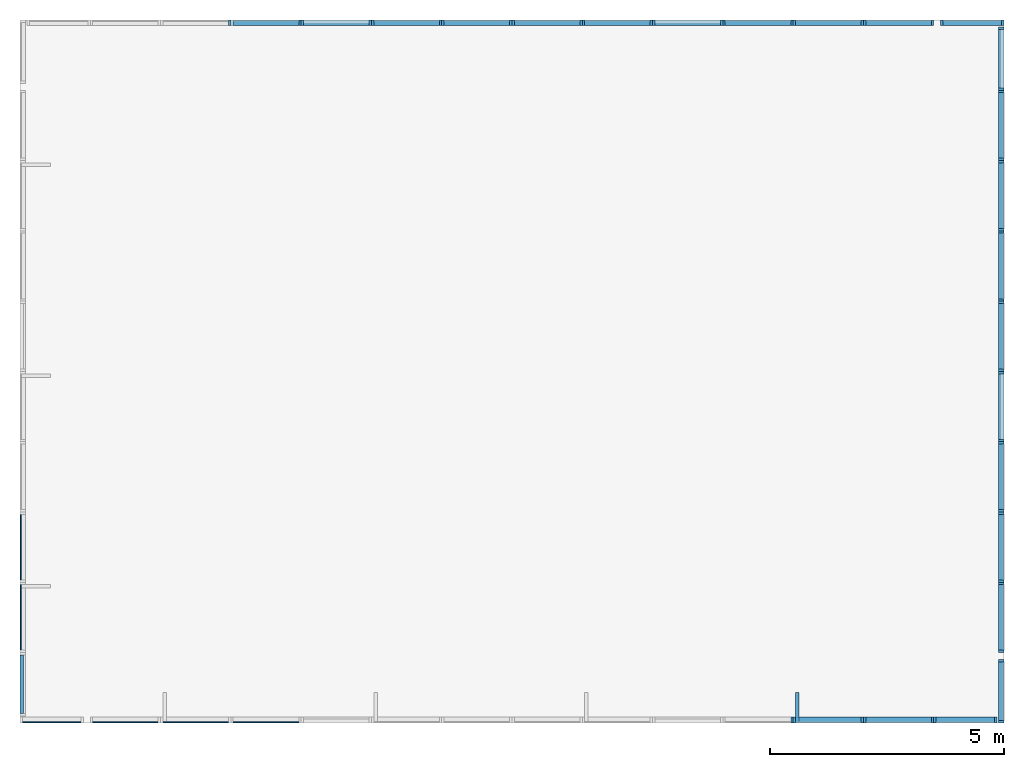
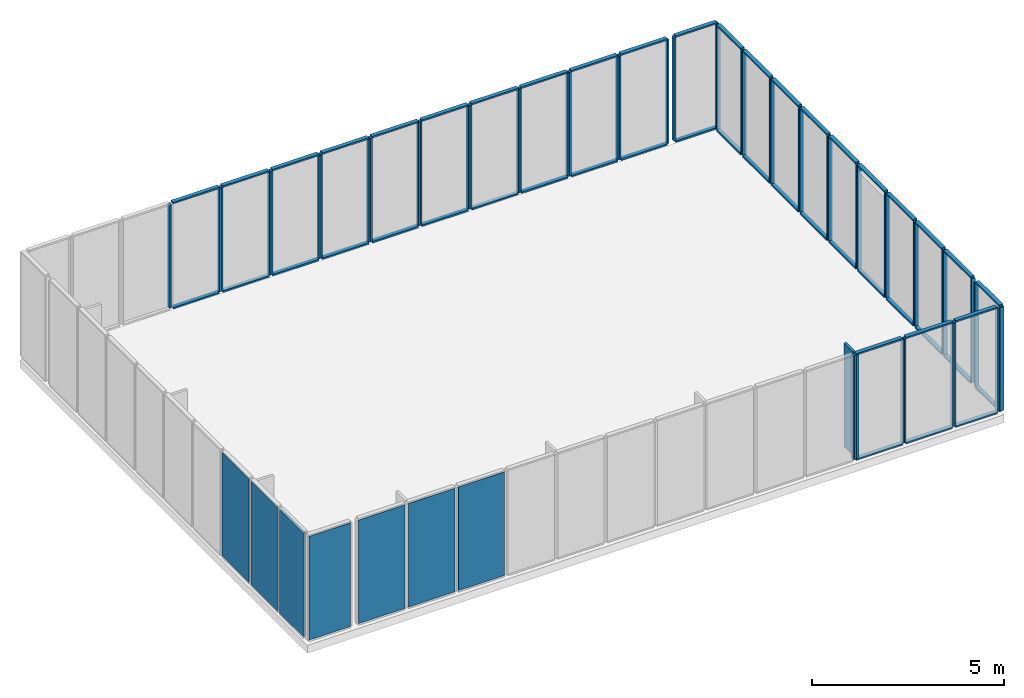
# One storey, part 2 of 3: 98 members, 7 plates.
"""IFC4 building model written with IfcOpenShell, lengths in metres."""

from ifc_helpers import new_model, si_unit, frame, origin_with_axes, place, context, subcontext, project, spatial, indexed_curve, outline, extrude, material, element, save


model = new_model("IFC4")

# Units and contexts
model_context = context("Model", 3, precision=1e-05, world=origin_with_axes())
body_context = subcontext(model_context, "Body", "Model", "MODEL_VIEW")
ifc_project = project(units=[si_unit("AREAUNIT", "SQUARE_METRE"), si_unit("VOLUMEUNIT", "CUBIC_METRE"), si_unit("LENGTHUNIT", "METRE")], contexts=[model_context])

# Site, building, storey
site = spatial("IfcSite", under=ifc_project, Name="Synthetic Site")
building = spatial("IfcBuilding", under=site, Name="Complex Tower")
storey_placement = place(None, frame((0.0, 0.0, 19.8), z_axis=(0.0, 0.0, 1.0), x_axis=(1.0, 0.0, 0.0)))
storey = spatial("IfcBuildingStorey", under=building, at=storey_placement, Name="L06", Elevation=19.8)

# Members
ifc_material_1 = material(Name="Aluminium")
for number, where, z_axis, x_axis, name in (
    (1, (19.45, 1.5, 0.14999999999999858), (0.0, 0.0, 1.0), (1.0, 0.0, 0.0), "CT-L06-S-011-MR"),
    (2, (19.5, 1.5, 0.14999999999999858), (0.0, 0.0, 1.0), (1.0, 0.0, 0.0), "CT-L06-S-012-ML"),
    (3, (20.95, 1.5, 0.14999999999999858), (0.0, 0.0, 1.0), (1.0, 0.0, 0.0), "CT-L06-S-012-MR"),
):
    element("IfcMember", number, at=place(storey_placement, frame(where, z_axis=z_axis, x_axis=x_axis)), inside=storey, material=ifc_material_1, Name=name, PredefinedType="MULLION", context=body_context, shape_type="SweptSolid", body=[
        extrude(outline(indexed_curve([(0.0, 0.0), (0.0, 0.12), (0.05, 0.12), (0.05, 0.0), (0.0, 0.0)], self_intersect=False)), origin_with_axes(), (0.0, 0.0, 1.0), 3.3000000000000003),
    ])
for number, where, z_axis, x_axis, name in (
    (4, (19.55, 1.5, 0.09999999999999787), (0.0, 0.0, 1.0), (1.0, 0.0, 0.0), "CT-L06-S-012-FB"),
    (5, (19.55, 1.5, 3.4499999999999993), (0.0, 0.0, 1.0), (1.0, 0.0, 0.0), "CT-L06-S-012-FT"),
):
    element("IfcMember", number, at=place(storey_placement, frame(where, z_axis=z_axis, x_axis=x_axis)), inside=storey, material=ifc_material_1, Name=name, PredefinedType="MULLION", context=body_context, shape_type="SweptSolid", body=[
        extrude(outline(indexed_curve([(0.0, 0.0), (0.0, 0.12), (1.4, 0.12), (1.4, 0.0), (0.0, 0.0)], self_intersect=False)), origin_with_axes(), (0.0, 0.0, 1.0), 0.05),
    ])
member_1_placement = place(storey_placement, frame((19.55, 1.5, 0.14999999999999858), z_axis=(0.0, 0.0, 1.0), x_axis=(1.0, 0.0, 0.0)))
element("IfcMember", 6, at=member_1_placement, inside=storey, material=ifc_material_1, Name="CT-L06-S-012-FIN", ObjectType="Solar shading", PredefinedType="USERDEFINED", context=body_context, shape_type="SweptSolid", body=[
    extrude(outline(indexed_curve([(0.0, 0.0), (0.0, 0.65), (0.075, 0.65), (0.075, 0.0), (0.0, 0.0)], self_intersect=False)), origin_with_axes(), (0.0, 0.0, 1.0), 3.3000000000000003),
])
for number, where, z_axis, x_axis, name in (
    (7, (21.0, 1.5, 0.14999999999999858), (0.0, 0.0, 1.0), (1.0, 0.0, 0.0), "CT-L06-S-013-ML"),
    (8, (22.45, 1.5, 0.14999999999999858), (0.0, 0.0, 1.0), (1.0, 0.0, 0.0), "CT-L06-S-013-MR"),
):
    element("IfcMember", number, at=place(storey_placement, frame(where, z_axis=z_axis, x_axis=x_axis)), inside=storey, material=ifc_material_1, Name=name, PredefinedType="MULLION", context=body_context, shape_type="SweptSolid", body=[
        extrude(outline(indexed_curve([(0.0, 0.0), (0.0, 0.12), (0.05, 0.12), (0.05, 0.0), (0.0, 0.0)], self_intersect=False)), origin_with_axes(), (0.0, 0.0, 1.0), 3.3000000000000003),
    ])
for number, where, z_axis, x_axis, name in (
    (9, (21.05, 1.5, 0.09999999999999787), (0.0, 0.0, 1.0), (1.0, 0.0, 0.0), "CT-L06-S-013-FB"),
    (10, (21.05, 1.5, 3.4499999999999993), (0.0, 0.0, 1.0), (1.0, 0.0, 0.0), "CT-L06-S-013-FT"),
):
    element("IfcMember", number, at=place(storey_placement, frame(where, z_axis=z_axis, x_axis=x_axis)), inside=storey, material=ifc_material_1, Name=name, PredefinedType="MULLION", context=body_context, shape_type="SweptSolid", body=[
        extrude(outline(indexed_curve([(0.0, 0.0), (0.0, 0.12), (1.4, 0.12), (1.4, 0.0), (0.0, 0.0)], self_intersect=False)), origin_with_axes(), (0.0, 0.0, 1.0), 0.05),
    ])
for number, where, z_axis, x_axis, name in (
    (11, (22.5, 1.5, 0.14999999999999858), (0.0, 0.0, 1.0), (1.0, 0.0, 0.0), "CT-L06-S-014-ML"),
    (12, (23.8, 1.5, 0.14999999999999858), (0.0, 0.0, 1.0), (1.0, 0.0, 0.0), "CT-L06-S-014-MR"),
):
    element("IfcMember", number, at=place(storey_placement, frame(where, z_axis=z_axis, x_axis=x_axis)), inside=storey, material=ifc_material_1, Name=name, PredefinedType="MULLION", context=body_context, shape_type="SweptSolid", body=[
        extrude(outline(indexed_curve([(0.0, 0.0), (0.0, 0.12), (0.05, 0.12), (0.05, 0.0), (0.0, 0.0)], self_intersect=False)), origin_with_axes(), (0.0, 0.0, 1.0), 3.3000000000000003),
    ])
for number, where, z_axis, x_axis, name in (
    (13, (22.55, 1.5, 0.09999999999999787), (0.0, 0.0, 1.0), (1.0, 0.0, 0.0), "CT-L06-S-014-FB"),
    (14, (22.55, 1.5, 3.4499999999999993), (0.0, 0.0, 1.0), (1.0, 0.0, 0.0), "CT-L06-S-014-FT"),
):
    element("IfcMember", number, at=place(storey_placement, frame(where, z_axis=z_axis, x_axis=x_axis)), inside=storey, material=ifc_material_1, Name=name, PredefinedType="MULLION", context=body_context, shape_type="SweptSolid", body=[
        extrude(outline(indexed_curve([(0.0, 0.0), (0.0, 0.12), (1.25, 0.12), (1.25, 0.0), (0.0, 0.0)], self_intersect=False)), origin_with_axes(), (0.0, 0.0, 1.0), 0.05),
    ])
for number, where, z_axis, x_axis, name in (
    (15, (24.0, 1.5, 0.14999999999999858), (0.0, 0.0, 1.0), (6.123233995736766e-17, 1.0, 0.0), "CT-L06-E-001-ML"),
    (16, (24.0, 2.8, 0.14999999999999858), (0.0, 0.0, 1.0), (6.123233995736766e-17, 1.0, 0.0), "CT-L06-E-001-MR"),
):
    element("IfcMember", number, at=place(storey_placement, frame(where, z_axis=z_axis, x_axis=x_axis)), inside=storey, material=ifc_material_1, Name=name, PredefinedType="MULLION", context=body_context, shape_type="SweptSolid", body=[
        extrude(outline(indexed_curve([(0.0, 0.0), (0.0, 0.12), (0.05, 0.12), (0.05, 0.0), (0.0, 0.0)], self_intersect=False)), origin_with_axes(), (0.0, 0.0, 1.0), 3.3000000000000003),
    ])
for number, where, z_axis, x_axis, name in (
    (17, (24.0, 1.55, 0.09999999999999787), (0.0, 0.0, 1.0), (6.123233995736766e-17, 1.0, 0.0), "CT-L06-E-001-FB"),
    (18, (24.0, 1.55, 3.4499999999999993), (0.0, 0.0, 1.0), (6.123233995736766e-17, 1.0, 0.0), "CT-L06-E-001-FT"),
):
    element("IfcMember", number, at=place(storey_placement, frame(where, z_axis=z_axis, x_axis=x_axis)), inside=storey, material=ifc_material_1, Name=name, PredefinedType="MULLION", context=body_context, shape_type="SweptSolid", body=[
        extrude(outline(indexed_curve([(0.0, 0.0), (0.0, 0.12), (1.25, 0.12), (1.25, 0.0), (0.0, 0.0)], self_intersect=False)), origin_with_axes(), (0.0, 0.0, 1.0), 0.05),
    ])
for number, where, z_axis, x_axis, name in (
    (19, (24.0, 3.0, 0.14999999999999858), (0.0, 0.0, 1.0), (6.123233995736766e-17, 1.0, 0.0), "CT-L06-E-002-ML"),
    (20, (24.0, 4.449999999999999, 0.14999999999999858), (0.0, 0.0, 1.0), (6.123233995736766e-17, 1.0, 0.0), "CT-L06-E-002-MR"),
):
    element("IfcMember", number, at=place(storey_placement, frame(where, z_axis=z_axis, x_axis=x_axis)), inside=storey, material=ifc_material_1, Name=name, PredefinedType="MULLION", context=body_context, shape_type="SweptSolid", body=[
        extrude(outline(indexed_curve([(0.0, 0.0), (0.0, 0.12), (0.05, 0.12), (0.05, 0.0), (0.0, 0.0)], self_intersect=False)), origin_with_axes(), (0.0, 0.0, 1.0), 3.3000000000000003),
    ])
for number, where, z_axis, x_axis, name in (
    (21, (24.0, 3.05, 0.09999999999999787), (0.0, 0.0, 1.0), (6.123233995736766e-17, 1.0, 0.0), "CT-L06-E-002-FB"),
    (22, (24.0, 3.05, 3.4499999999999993), (0.0, 0.0, 1.0), (6.123233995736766e-17, 1.0, 0.0), "CT-L06-E-002-FT"),
):
    element("IfcMember", number, at=place(storey_placement, frame(where, z_axis=z_axis, x_axis=x_axis)), inside=storey, material=ifc_material_1, Name=name, PredefinedType="MULLION", context=body_context, shape_type="SweptSolid", body=[
        extrude(outline(indexed_curve([(0.0, 0.0), (0.0, 0.12), (1.4, 0.12), (1.4, 0.0), (0.0, 0.0)], self_intersect=False)), origin_with_axes(), (0.0, 0.0, 1.0), 0.05),
    ])
for number, where, z_axis, x_axis, name in (
    (23, (24.0, 4.5, 0.14999999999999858), (0.0, 0.0, 1.0), (6.123233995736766e-17, 1.0, 0.0), "CT-L06-E-003-ML"),
    (24, (24.0, 5.949999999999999, 0.14999999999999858), (0.0, 0.0, 1.0), (6.123233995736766e-17, 1.0, 0.0), "CT-L06-E-003-MR"),
):
    element("IfcMember", number, at=place(storey_placement, frame(where, z_axis=z_axis, x_axis=x_axis)), inside=storey, material=ifc_material_1, Name=name, PredefinedType="MULLION", context=body_context, shape_type="SweptSolid", body=[
        extrude(outline(indexed_curve([(0.0, 0.0), (0.0, 0.12), (0.05, 0.12), (0.05, 0.0), (0.0, 0.0)], self_intersect=False)), origin_with_axes(), (0.0, 0.0, 1.0), 3.3000000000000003),
    ])
for number, where, z_axis, x_axis, name in (
    (25, (24.0, 4.55, 0.09999999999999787), (0.0, 0.0, 1.0), (6.123233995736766e-17, 1.0, 0.0), "CT-L06-E-003-FB"),
    (26, (24.0, 4.55, 3.4499999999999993), (0.0, 0.0, 1.0), (6.123233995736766e-17, 1.0, 0.0), "CT-L06-E-003-FT"),
):
    element("IfcMember", number, at=place(storey_placement, frame(where, z_axis=z_axis, x_axis=x_axis)), inside=storey, material=ifc_material_1, Name=name, PredefinedType="MULLION", context=body_context, shape_type="SweptSolid", body=[
        extrude(outline(indexed_curve([(0.0, 0.0), (0.0, 0.12), (1.4, 0.12), (1.4, 0.0), (0.0, 0.0)], self_intersect=False)), origin_with_axes(), (0.0, 0.0, 1.0), 0.05),
    ])
for number, where, z_axis, x_axis, name in (
    (27, (24.0, 6.0, 0.14999999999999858), (0.0, 0.0, 1.0), (6.123233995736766e-17, 1.0, 0.0), "CT-L06-E-004-ML"),
    (28, (24.0, 7.449999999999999, 0.14999999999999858), (0.0, 0.0, 1.0), (6.123233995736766e-17, 1.0, 0.0), "CT-L06-E-004-MR"),
):
    element("IfcMember", number, at=place(storey_placement, frame(where, z_axis=z_axis, x_axis=x_axis)), inside=storey, material=ifc_material_1, Name=name, PredefinedType="MULLION", context=body_context, shape_type="SweptSolid", body=[
        extrude(outline(indexed_curve([(0.0, 0.0), (0.0, 0.12), (0.05, 0.12), (0.05, 0.0), (0.0, 0.0)], self_intersect=False)), origin_with_axes(), (0.0, 0.0, 1.0), 3.3000000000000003),
    ])
for number, where, z_axis, x_axis, name in (
    (29, (24.0, 6.05, 0.09999999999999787), (0.0, 0.0, 1.0), (6.123233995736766e-17, 1.0, 0.0), "CT-L06-E-004-FB"),
    (30, (24.0, 6.05, 3.4499999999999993), (0.0, 0.0, 1.0), (6.123233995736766e-17, 1.0, 0.0), "CT-L06-E-004-FT"),
):
    element("IfcMember", number, at=place(storey_placement, frame(where, z_axis=z_axis, x_axis=x_axis)), inside=storey, material=ifc_material_1, Name=name, PredefinedType="MULLION", context=body_context, shape_type="SweptSolid", body=[
        extrude(outline(indexed_curve([(0.0, 0.0), (0.0, 0.12), (1.4, 0.12), (1.4, 0.0), (0.0, 0.0)], self_intersect=False)), origin_with_axes(), (0.0, 0.0, 1.0), 0.05),
    ])
for number, where, z_axis, x_axis, name in (
    (31, (24.0, 7.5, 0.14999999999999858), (0.0, 0.0, 1.0), (6.123233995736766e-17, 1.0, 0.0), "CT-L06-E-005-ML"),
    (32, (24.0, 8.95, 0.14999999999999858), (0.0, 0.0, 1.0), (6.123233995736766e-17, 1.0, 0.0), "CT-L06-E-005-MR"),
):
    element("IfcMember", number, at=place(storey_placement, frame(where, z_axis=z_axis, x_axis=x_axis)), inside=storey, material=ifc_material_1, Name=name, PredefinedType="MULLION", context=body_context, shape_type="SweptSolid", body=[
        extrude(outline(indexed_curve([(0.0, 0.0), (0.0, 0.12), (0.05, 0.12), (0.05, 0.0), (0.0, 0.0)], self_intersect=False)), origin_with_axes(), (0.0, 0.0, 1.0), 3.3000000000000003),
    ])
for number, where, z_axis, x_axis, name in (
    (33, (24.0, 7.55, 0.09999999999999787), (0.0, 0.0, 1.0), (6.123233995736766e-17, 1.0, 0.0), "CT-L06-E-005-FB"),
    (34, (24.0, 7.55, 3.4499999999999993), (0.0, 0.0, 1.0), (6.123233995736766e-17, 1.0, 0.0), "CT-L06-E-005-FT"),
):
    element("IfcMember", number, at=place(storey_placement, frame(where, z_axis=z_axis, x_axis=x_axis)), inside=storey, material=ifc_material_1, Name=name, PredefinedType="MULLION", context=body_context, shape_type="SweptSolid", body=[
        extrude(outline(indexed_curve([(0.0, 0.0), (0.0, 0.12), (1.4, 0.12), (1.4, 0.0), (0.0, 0.0)], self_intersect=False)), origin_with_axes(), (0.0, 0.0, 1.0), 0.05),
    ])
for number, where, z_axis, x_axis, name in (
    (35, (24.0, 9.0, 0.14999999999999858), (0.0, 0.0, 1.0), (6.123233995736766e-17, 1.0, 0.0), "CT-L06-E-006-ML"),
    (36, (24.0, 10.450000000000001, 0.14999999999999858), (0.0, 0.0, 1.0), (6.123233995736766e-17, 1.0, 0.0), "CT-L06-E-006-MR"),
):
    element("IfcMember", number, at=place(storey_placement, frame(where, z_axis=z_axis, x_axis=x_axis)), inside=storey, material=ifc_material_1, Name=name, PredefinedType="MULLION", context=body_context, shape_type="SweptSolid", body=[
        extrude(outline(indexed_curve([(0.0, 0.0), (0.0, 0.12), (0.05, 0.12), (0.05, 0.0), (0.0, 0.0)], self_intersect=False)), origin_with_axes(), (0.0, 0.0, 1.0), 3.3000000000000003),
    ])
for number, where, z_axis, x_axis, name in (
    (37, (24.0, 9.05, 0.09999999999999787), (0.0, 0.0, 1.0), (6.123233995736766e-17, 1.0, 0.0), "CT-L06-E-006-FB"),
    (38, (24.0, 9.05, 3.4499999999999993), (0.0, 0.0, 1.0), (6.123233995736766e-17, 1.0, 0.0), "CT-L06-E-006-FT"),
):
    element("IfcMember", number, at=place(storey_placement, frame(where, z_axis=z_axis, x_axis=x_axis)), inside=storey, material=ifc_material_1, Name=name, PredefinedType="MULLION", context=body_context, shape_type="SweptSolid", body=[
        extrude(outline(indexed_curve([(0.0, 0.0), (0.0, 0.12), (1.4, 0.12), (1.4, 0.0), (0.0, 0.0)], self_intersect=False)), origin_with_axes(), (0.0, 0.0, 1.0), 0.05),
    ])
for number, where, z_axis, x_axis, name in (
    (39, (24.0, 10.5, 0.14999999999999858), (0.0, 0.0, 1.0), (6.123233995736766e-17, 1.0, 0.0), "CT-L06-E-007-ML"),
    (40, (24.0, 11.950000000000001, 0.14999999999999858), (0.0, 0.0, 1.0), (6.123233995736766e-17, 1.0, 0.0), "CT-L06-E-007-MR"),
):
    element("IfcMember", number, at=place(storey_placement, frame(where, z_axis=z_axis, x_axis=x_axis)), inside=storey, material=ifc_material_1, Name=name, PredefinedType="MULLION", context=body_context, shape_type="SweptSolid", body=[
        extrude(outline(indexed_curve([(0.0, 0.0), (0.0, 0.12), (0.05, 0.12), (0.05, 0.0), (0.0, 0.0)], self_intersect=False)), origin_with_axes(), (0.0, 0.0, 1.0), 3.3000000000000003),
    ])
for number, where, z_axis, x_axis, name in (
    (41, (24.0, 10.55, 0.09999999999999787), (0.0, 0.0, 1.0), (6.123233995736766e-17, 1.0, 0.0), "CT-L06-E-007-FB"),
    (42, (24.0, 10.55, 3.4499999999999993), (0.0, 0.0, 1.0), (6.123233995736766e-17, 1.0, 0.0), "CT-L06-E-007-FT"),
):
    element("IfcMember", number, at=place(storey_placement, frame(where, z_axis=z_axis, x_axis=x_axis)), inside=storey, material=ifc_material_1, Name=name, PredefinedType="MULLION", context=body_context, shape_type="SweptSolid", body=[
        extrude(outline(indexed_curve([(0.0, 0.0), (0.0, 0.12), (1.4, 0.12), (1.4, 0.0), (0.0, 0.0)], self_intersect=False)), origin_with_axes(), (0.0, 0.0, 1.0), 0.05),
    ])
for number, where, z_axis, x_axis, name in (
    (43, (24.0, 12.0, 0.14999999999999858), (0.0, 0.0, 1.0), (6.123233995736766e-17, 1.0, 0.0), "CT-L06-E-008-ML"),
    (44, (24.0, 13.450000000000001, 0.14999999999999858), (0.0, 0.0, 1.0), (6.123233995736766e-17, 1.0, 0.0), "CT-L06-E-008-MR"),
):
    element("IfcMember", number, at=place(storey_placement, frame(where, z_axis=z_axis, x_axis=x_axis)), inside=storey, material=ifc_material_1, Name=name, PredefinedType="MULLION", context=body_context, shape_type="SweptSolid", body=[
        extrude(outline(indexed_curve([(0.0, 0.0), (0.0, 0.12), (0.05, 0.12), (0.05, 0.0), (0.0, 0.0)], self_intersect=False)), origin_with_axes(), (0.0, 0.0, 1.0), 3.3000000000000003),
    ])
for number, where, z_axis, x_axis, name in (
    (45, (24.0, 12.05, 0.09999999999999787), (0.0, 0.0, 1.0), (6.123233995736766e-17, 1.0, 0.0), "CT-L06-E-008-FB"),
    (46, (24.0, 12.05, 3.4499999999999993), (0.0, 0.0, 1.0), (6.123233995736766e-17, 1.0, 0.0), "CT-L06-E-008-FT"),
):
    element("IfcMember", number, at=place(storey_placement, frame(where, z_axis=z_axis, x_axis=x_axis)), inside=storey, material=ifc_material_1, Name=name, PredefinedType="MULLION", context=body_context, shape_type="SweptSolid", body=[
        extrude(outline(indexed_curve([(0.0, 0.0), (0.0, 0.12), (1.4, 0.12), (1.4, 0.0), (0.0, 0.0)], self_intersect=False)), origin_with_axes(), (0.0, 0.0, 1.0), 0.05),
    ])
for number, where, z_axis, x_axis, name in (
    (47, (24.0, 13.5, 0.14999999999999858), (0.0, 0.0, 1.0), (6.123233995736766e-17, 1.0, 0.0), "CT-L06-E-009-ML"),
    (48, (24.0, 14.950000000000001, 0.14999999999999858), (0.0, 0.0, 1.0), (6.123233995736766e-17, 1.0, 0.0), "CT-L06-E-009-MR"),
):
    element("IfcMember", number, at=place(storey_placement, frame(where, z_axis=z_axis, x_axis=x_axis)), inside=storey, material=ifc_material_1, Name=name, PredefinedType="MULLION", context=body_context, shape_type="SweptSolid", body=[
        extrude(outline(indexed_curve([(0.0, 0.0), (0.0, 0.12), (0.05, 0.12), (0.05, 0.0), (0.0, 0.0)], self_intersect=False)), origin_with_axes(), (0.0, 0.0, 1.0), 3.3000000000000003),
    ])
for number, where, z_axis, x_axis, name in (
    (49, (24.0, 13.55, 0.09999999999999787), (0.0, 0.0, 1.0), (6.123233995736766e-17, 1.0, 0.0), "CT-L06-E-009-FB"),
    (50, (24.0, 13.55, 3.4499999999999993), (0.0, 0.0, 1.0), (6.123233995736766e-17, 1.0, 0.0), "CT-L06-E-009-FT"),
):
    element("IfcMember", number, at=place(storey_placement, frame(where, z_axis=z_axis, x_axis=x_axis)), inside=storey, material=ifc_material_1, Name=name, PredefinedType="MULLION", context=body_context, shape_type="SweptSolid", body=[
        extrude(outline(indexed_curve([(0.0, 0.0), (0.0, 0.12), (1.4, 0.12), (1.4, 0.0), (0.0, 0.0)], self_intersect=False)), origin_with_axes(), (0.0, 0.0, 1.0), 0.05),
    ])
for number, where, z_axis, x_axis, name in (
    (51, (24.0, 15.0, 0.14999999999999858), (0.0, 0.0, 1.0), (6.123233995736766e-17, 1.0, 0.0), "CT-L06-E-010-ML"),
    (52, (24.0, 16.3, 0.14999999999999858), (0.0, 0.0, 1.0), (6.123233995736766e-17, 1.0, 0.0), "CT-L06-E-010-MR"),
):
    element("IfcMember", number, at=place(storey_placement, frame(where, z_axis=z_axis, x_axis=x_axis)), inside=storey, material=ifc_material_1, Name=name, PredefinedType="MULLION", context=body_context, shape_type="SweptSolid", body=[
        extrude(outline(indexed_curve([(0.0, 0.0), (0.0, 0.12), (0.05, 0.12), (0.05, 0.0), (0.0, 0.0)], self_intersect=False)), origin_with_axes(), (0.0, 0.0, 1.0), 3.3000000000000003),
    ])
for number, where, z_axis, x_axis, name in (
    (53, (24.0, 15.05, 0.09999999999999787), (0.0, 0.0, 1.0), (6.123233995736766e-17, 1.0, 0.0), "CT-L06-E-010-FB"),
    (54, (24.0, 15.05, 3.4499999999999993), (0.0, 0.0, 1.0), (6.123233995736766e-17, 1.0, 0.0), "CT-L06-E-010-FT"),
):
    element("IfcMember", number, at=place(storey_placement, frame(where, z_axis=z_axis, x_axis=x_axis)), inside=storey, material=ifc_material_1, Name=name, PredefinedType="MULLION", context=body_context, shape_type="SweptSolid", body=[
        extrude(outline(indexed_curve([(0.0, 0.0), (0.0, 0.12), (1.25, 0.12), (1.25, 0.0), (0.0, 0.0)], self_intersect=False)), origin_with_axes(), (0.0, 0.0, 1.0), 0.05),
    ])
for number, where, z_axis, x_axis, name in (
    (55, (24.0, 16.5, 0.14999999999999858), (0.0, 0.0, 1.0), (-1.0, 1.2246467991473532e-16, 0.0), "CT-L06-N-001-ML"),
    (56, (22.7, 16.5, 0.14999999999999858), (0.0, 0.0, 1.0), (-1.0, 1.2246467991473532e-16, 0.0), "CT-L06-N-001-MR"),
):
    element("IfcMember", number, at=place(storey_placement, frame(where, z_axis=z_axis, x_axis=x_axis)), inside=storey, material=ifc_material_1, Name=name, PredefinedType="MULLION", context=body_context, shape_type="SweptSolid", body=[
        extrude(outline(indexed_curve([(0.0, 0.0), (0.0, 0.12), (0.05, 0.12), (0.05, 0.0), (0.0, 0.0)], self_intersect=False)), origin_with_axes(), (0.0, 0.0, 1.0), 3.3000000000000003),
    ])
for number, where, z_axis, x_axis, name in (
    (57, (23.95, 16.5, 0.09999999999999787), (0.0, 0.0, 1.0), (-1.0, 1.2246467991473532e-16, 0.0), "CT-L06-N-001-FB"),
    (58, (23.95, 16.5, 3.4499999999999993), (0.0, 0.0, 1.0), (-1.0, 1.2246467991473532e-16, 0.0), "CT-L06-N-001-FT"),
):
    element("IfcMember", number, at=place(storey_placement, frame(where, z_axis=z_axis, x_axis=x_axis)), inside=storey, material=ifc_material_1, Name=name, PredefinedType="MULLION", context=body_context, shape_type="SweptSolid", body=[
        extrude(outline(indexed_curve([(0.0, 0.0), (0.0, 0.12), (1.25, 0.12), (1.25, 0.0), (0.0, 0.0)], self_intersect=False)), origin_with_axes(), (0.0, 0.0, 1.0), 0.05),
    ])
for number, where, z_axis, x_axis, name in (
    (59, (22.5, 16.5, 0.14999999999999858), (0.0, 0.0, 1.0), (-1.0, 1.2246467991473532e-16, 0.0), "CT-L06-N-002-ML"),
    (60, (21.05, 16.5, 0.14999999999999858), (0.0, 0.0, 1.0), (-1.0, 1.2246467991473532e-16, 0.0), "CT-L06-N-002-MR"),
):
    element("IfcMember", number, at=place(storey_placement, frame(where, z_axis=z_axis, x_axis=x_axis)), inside=storey, material=ifc_material_1, Name=name, PredefinedType="MULLION", context=body_context, shape_type="SweptSolid", body=[
        extrude(outline(indexed_curve([(0.0, 0.0), (0.0, 0.12), (0.05, 0.12), (0.05, 0.0), (0.0, 0.0)], self_intersect=False)), origin_with_axes(), (0.0, 0.0, 1.0), 3.3000000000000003),
    ])
for number, where, z_axis, x_axis, name in (
    (61, (22.45, 16.5, 0.09999999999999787), (0.0, 0.0, 1.0), (-1.0, 1.2246467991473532e-16, 0.0), "CT-L06-N-002-FB"),
    (62, (22.45, 16.5, 3.4499999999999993), (0.0, 0.0, 1.0), (-1.0, 1.2246467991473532e-16, 0.0), "CT-L06-N-002-FT"),
):
    element("IfcMember", number, at=place(storey_placement, frame(where, z_axis=z_axis, x_axis=x_axis)), inside=storey, material=ifc_material_1, Name=name, PredefinedType="MULLION", context=body_context, shape_type="SweptSolid", body=[
        extrude(outline(indexed_curve([(0.0, 0.0), (0.0, 0.12), (1.4, 0.12), (1.4, 0.0), (0.0, 0.0)], self_intersect=False)), origin_with_axes(), (0.0, 0.0, 1.0), 0.05),
    ])
for number, where, z_axis, x_axis, name in (
    (63, (21.0, 16.5, 0.14999999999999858), (0.0, 0.0, 1.0), (-1.0, 1.2246467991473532e-16, 0.0), "CT-L06-N-003-ML"),
    (64, (19.55, 16.5, 0.14999999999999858), (0.0, 0.0, 1.0), (-1.0, 1.2246467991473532e-16, 0.0), "CT-L06-N-003-MR"),
):
    element("IfcMember", number, at=place(storey_placement, frame(where, z_axis=z_axis, x_axis=x_axis)), inside=storey, material=ifc_material_1, Name=name, PredefinedType="MULLION", context=body_context, shape_type="SweptSolid", body=[
        extrude(outline(indexed_curve([(0.0, 0.0), (0.0, 0.12), (0.05, 0.12), (0.05, 0.0), (0.0, 0.0)], self_intersect=False)), origin_with_axes(), (0.0, 0.0, 1.0), 3.3000000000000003),
    ])
for number, where, z_axis, x_axis, name in (
    (65, (20.95, 16.5, 0.09999999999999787), (0.0, 0.0, 1.0), (-1.0, 1.2246467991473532e-16, 0.0), "CT-L06-N-003-FB"),
    (66, (20.95, 16.5, 3.4499999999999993), (0.0, 0.0, 1.0), (-1.0, 1.2246467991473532e-16, 0.0), "CT-L06-N-003-FT"),
):
    element("IfcMember", number, at=place(storey_placement, frame(where, z_axis=z_axis, x_axis=x_axis)), inside=storey, material=ifc_material_1, Name=name, PredefinedType="MULLION", context=body_context, shape_type="SweptSolid", body=[
        extrude(outline(indexed_curve([(0.0, 0.0), (0.0, 0.12), (1.4, 0.12), (1.4, 0.0), (0.0, 0.0)], self_intersect=False)), origin_with_axes(), (0.0, 0.0, 1.0), 0.05),
    ])
for number, where, z_axis, x_axis, name in (
    (67, (19.5, 16.5, 0.14999999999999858), (0.0, 0.0, 1.0), (-1.0, 1.2246467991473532e-16, 0.0), "CT-L06-N-004-ML"),
    (68, (18.05, 16.5, 0.14999999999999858), (0.0, 0.0, 1.0), (-1.0, 1.2246467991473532e-16, 0.0), "CT-L06-N-004-MR"),
):
    element("IfcMember", number, at=place(storey_placement, frame(where, z_axis=z_axis, x_axis=x_axis)), inside=storey, material=ifc_material_1, Name=name, PredefinedType="MULLION", context=body_context, shape_type="SweptSolid", body=[
        extrude(outline(indexed_curve([(0.0, 0.0), (0.0, 0.12), (0.05, 0.12), (0.05, 0.0), (0.0, 0.0)], self_intersect=False)), origin_with_axes(), (0.0, 0.0, 1.0), 3.3000000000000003),
    ])
for number, where, z_axis, x_axis, name in (
    (69, (19.45, 16.5, 0.09999999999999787), (0.0, 0.0, 1.0), (-1.0, 1.2246467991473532e-16, 0.0), "CT-L06-N-004-FB"),
    (70, (19.45, 16.5, 3.4499999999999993), (0.0, 0.0, 1.0), (-1.0, 1.2246467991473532e-16, 0.0), "CT-L06-N-004-FT"),
):
    element("IfcMember", number, at=place(storey_placement, frame(where, z_axis=z_axis, x_axis=x_axis)), inside=storey, material=ifc_material_1, Name=name, PredefinedType="MULLION", context=body_context, shape_type="SweptSolid", body=[
        extrude(outline(indexed_curve([(0.0, 0.0), (0.0, 0.12), (1.4, 0.12), (1.4, 0.0), (0.0, 0.0)], self_intersect=False)), origin_with_axes(), (0.0, 0.0, 1.0), 0.05),
    ])
for number, where, z_axis, x_axis, name in (
    (71, (18.0, 16.5, 0.14999999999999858), (0.0, 0.0, 1.0), (-1.0, 1.2246467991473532e-16, 0.0), "CT-L06-N-005-ML"),
    (72, (16.55, 16.5, 0.14999999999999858), (0.0, 0.0, 1.0), (-1.0, 1.2246467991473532e-16, 0.0), "CT-L06-N-005-MR"),
):
    element("IfcMember", number, at=place(storey_placement, frame(where, z_axis=z_axis, x_axis=x_axis)), inside=storey, material=ifc_material_1, Name=name, PredefinedType="MULLION", context=body_context, shape_type="SweptSolid", body=[
        extrude(outline(indexed_curve([(0.0, 0.0), (0.0, 0.12), (0.05, 0.12), (0.05, 0.0), (0.0, 0.0)], self_intersect=False)), origin_with_axes(), (0.0, 0.0, 1.0), 3.3000000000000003),
    ])
for number, where, z_axis, x_axis, name in (
    (73, (17.95, 16.5, 0.09999999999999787), (0.0, 0.0, 1.0), (-1.0, 1.2246467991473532e-16, 0.0), "CT-L06-N-005-FB"),
    (74, (17.95, 16.5, 3.4499999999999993), (0.0, 0.0, 1.0), (-1.0, 1.2246467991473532e-16, 0.0), "CT-L06-N-005-FT"),
):
    element("IfcMember", number, at=place(storey_placement, frame(where, z_axis=z_axis, x_axis=x_axis)), inside=storey, material=ifc_material_1, Name=name, PredefinedType="MULLION", context=body_context, shape_type="SweptSolid", body=[
        extrude(outline(indexed_curve([(0.0, 0.0), (0.0, 0.12), (1.4, 0.12), (1.4, 0.0), (0.0, 0.0)], self_intersect=False)), origin_with_axes(), (0.0, 0.0, 1.0), 0.05),
    ])
for number, where, z_axis, x_axis, name in (
    (75, (16.5, 16.5, 0.14999999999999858), (0.0, 0.0, 1.0), (-1.0, 1.2246467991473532e-16, 0.0), "CT-L06-N-006-ML"),
    (76, (15.049999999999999, 16.5, 0.14999999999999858), (0.0, 0.0, 1.0), (-1.0, 1.2246467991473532e-16, 0.0), "CT-L06-N-006-MR"),
):
    element("IfcMember", number, at=place(storey_placement, frame(where, z_axis=z_axis, x_axis=x_axis)), inside=storey, material=ifc_material_1, Name=name, PredefinedType="MULLION", context=body_context, shape_type="SweptSolid", body=[
        extrude(outline(indexed_curve([(0.0, 0.0), (0.0, 0.12), (0.05, 0.12), (0.05, 0.0), (0.0, 0.0)], self_intersect=False)), origin_with_axes(), (0.0, 0.0, 1.0), 3.3000000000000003),
    ])
for number, where, z_axis, x_axis, name in (
    (77, (16.45, 16.5, 0.09999999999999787), (0.0, 0.0, 1.0), (-1.0, 1.2246467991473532e-16, 0.0), "CT-L06-N-006-FB"),
    (78, (16.45, 16.5, 3.4499999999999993), (0.0, 0.0, 1.0), (-1.0, 1.2246467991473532e-16, 0.0), "CT-L06-N-006-FT"),
):
    element("IfcMember", number, at=place(storey_placement, frame(where, z_axis=z_axis, x_axis=x_axis)), inside=storey, material=ifc_material_1, Name=name, PredefinedType="MULLION", context=body_context, shape_type="SweptSolid", body=[
        extrude(outline(indexed_curve([(0.0, 0.0), (0.0, 0.12), (1.4, 0.12), (1.4, 0.0), (0.0, 0.0)], self_intersect=False)), origin_with_axes(), (0.0, 0.0, 1.0), 0.05),
    ])
for number, where, z_axis, x_axis, name in (
    (79, (15.0, 16.5, 0.14999999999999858), (0.0, 0.0, 1.0), (-1.0, 1.2246467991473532e-16, 0.0), "CT-L06-N-007-ML"),
    (80, (13.549999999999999, 16.5, 0.14999999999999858), (0.0, 0.0, 1.0), (-1.0, 1.2246467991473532e-16, 0.0), "CT-L06-N-007-MR"),
):
    element("IfcMember", number, at=place(storey_placement, frame(where, z_axis=z_axis, x_axis=x_axis)), inside=storey, material=ifc_material_1, Name=name, PredefinedType="MULLION", context=body_context, shape_type="SweptSolid", body=[
        extrude(outline(indexed_curve([(0.0, 0.0), (0.0, 0.12), (0.05, 0.12), (0.05, 0.0), (0.0, 0.0)], self_intersect=False)), origin_with_axes(), (0.0, 0.0, 1.0), 3.3000000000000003),
    ])
for number, where, z_axis, x_axis, name in (
    (81, (14.95, 16.5, 0.09999999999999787), (0.0, 0.0, 1.0), (-1.0, 1.2246467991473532e-16, 0.0), "CT-L06-N-007-FB"),
    (82, (14.95, 16.5, 3.4499999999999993), (0.0, 0.0, 1.0), (-1.0, 1.2246467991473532e-16, 0.0), "CT-L06-N-007-FT"),
):
    element("IfcMember", number, at=place(storey_placement, frame(where, z_axis=z_axis, x_axis=x_axis)), inside=storey, material=ifc_material_1, Name=name, PredefinedType="MULLION", context=body_context, shape_type="SweptSolid", body=[
        extrude(outline(indexed_curve([(0.0, 0.0), (0.0, 0.12), (1.4, 0.12), (1.4, 0.0), (0.0, 0.0)], self_intersect=False)), origin_with_axes(), (0.0, 0.0, 1.0), 0.05),
    ])
for number, where, z_axis, x_axis, name in (
    (83, (13.5, 16.5, 0.14999999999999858), (0.0, 0.0, 1.0), (-1.0, 1.2246467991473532e-16, 0.0), "CT-L06-N-008-ML"),
    (84, (12.049999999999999, 16.5, 0.14999999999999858), (0.0, 0.0, 1.0), (-1.0, 1.2246467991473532e-16, 0.0), "CT-L06-N-008-MR"),
):
    element("IfcMember", number, at=place(storey_placement, frame(where, z_axis=z_axis, x_axis=x_axis)), inside=storey, material=ifc_material_1, Name=name, PredefinedType="MULLION", context=body_context, shape_type="SweptSolid", body=[
        extrude(outline(indexed_curve([(0.0, 0.0), (0.0, 0.12), (0.05, 0.12), (0.05, 0.0), (0.0, 0.0)], self_intersect=False)), origin_with_axes(), (0.0, 0.0, 1.0), 3.3000000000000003),
    ])
for number, where, z_axis, x_axis, name in (
    (85, (13.45, 16.5, 0.09999999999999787), (0.0, 0.0, 1.0), (-1.0, 1.2246467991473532e-16, 0.0), "CT-L06-N-008-FB"),
    (86, (13.45, 16.5, 3.4499999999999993), (0.0, 0.0, 1.0), (-1.0, 1.2246467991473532e-16, 0.0), "CT-L06-N-008-FT"),
):
    element("IfcMember", number, at=place(storey_placement, frame(where, z_axis=z_axis, x_axis=x_axis)), inside=storey, material=ifc_material_1, Name=name, PredefinedType="MULLION", context=body_context, shape_type="SweptSolid", body=[
        extrude(outline(indexed_curve([(0.0, 0.0), (0.0, 0.12), (1.4, 0.12), (1.4, 0.0), (0.0, 0.0)], self_intersect=False)), origin_with_axes(), (0.0, 0.0, 1.0), 0.05),
    ])
for number, where, z_axis, x_axis, name in (
    (87, (12.0, 16.5, 0.14999999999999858), (0.0, 0.0, 1.0), (-1.0, 1.2246467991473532e-16, 0.0), "CT-L06-N-009-ML"),
    (88, (10.549999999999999, 16.5, 0.14999999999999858), (0.0, 0.0, 1.0), (-1.0, 1.2246467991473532e-16, 0.0), "CT-L06-N-009-MR"),
):
    element("IfcMember", number, at=place(storey_placement, frame(where, z_axis=z_axis, x_axis=x_axis)), inside=storey, material=ifc_material_1, Name=name, PredefinedType="MULLION", context=body_context, shape_type="SweptSolid", body=[
        extrude(outline(indexed_curve([(0.0, 0.0), (0.0, 0.12), (0.05, 0.12), (0.05, 0.0), (0.0, 0.0)], self_intersect=False)), origin_with_axes(), (0.0, 0.0, 1.0), 3.3000000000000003),
    ])
for number, where, z_axis, x_axis, name in (
    (89, (11.95, 16.5, 0.09999999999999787), (0.0, 0.0, 1.0), (-1.0, 1.2246467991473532e-16, 0.0), "CT-L06-N-009-FB"),
    (90, (11.95, 16.5, 3.4499999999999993), (0.0, 0.0, 1.0), (-1.0, 1.2246467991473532e-16, 0.0), "CT-L06-N-009-FT"),
):
    element("IfcMember", number, at=place(storey_placement, frame(where, z_axis=z_axis, x_axis=x_axis)), inside=storey, material=ifc_material_1, Name=name, PredefinedType="MULLION", context=body_context, shape_type="SweptSolid", body=[
        extrude(outline(indexed_curve([(0.0, 0.0), (0.0, 0.12), (1.4, 0.12), (1.4, 0.0), (0.0, 0.0)], self_intersect=False)), origin_with_axes(), (0.0, 0.0, 1.0), 0.05),
    ])
for number, where, z_axis, x_axis, name in (
    (91, (10.5, 16.5, 0.14999999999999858), (0.0, 0.0, 1.0), (-1.0, 1.2246467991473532e-16, 0.0), "CT-L06-N-010-ML"),
    (92, (9.049999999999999, 16.5, 0.14999999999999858), (0.0, 0.0, 1.0), (-1.0, 1.2246467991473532e-16, 0.0), "CT-L06-N-010-MR"),
):
    element("IfcMember", number, at=place(storey_placement, frame(where, z_axis=z_axis, x_axis=x_axis)), inside=storey, material=ifc_material_1, Name=name, PredefinedType="MULLION", context=body_context, shape_type="SweptSolid", body=[
        extrude(outline(indexed_curve([(0.0, 0.0), (0.0, 0.12), (0.05, 0.12), (0.05, 0.0), (0.0, 0.0)], self_intersect=False)), origin_with_axes(), (0.0, 0.0, 1.0), 3.3000000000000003),
    ])
for number, where, z_axis, x_axis, name in (
    (93, (10.45, 16.5, 0.09999999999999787), (0.0, 0.0, 1.0), (-1.0, 1.2246467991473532e-16, 0.0), "CT-L06-N-010-FB"),
    (94, (10.45, 16.5, 3.4499999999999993), (0.0, 0.0, 1.0), (-1.0, 1.2246467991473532e-16, 0.0), "CT-L06-N-010-FT"),
):
    element("IfcMember", number, at=place(storey_placement, frame(where, z_axis=z_axis, x_axis=x_axis)), inside=storey, material=ifc_material_1, Name=name, PredefinedType="MULLION", context=body_context, shape_type="SweptSolid", body=[
        extrude(outline(indexed_curve([(0.0, 0.0), (0.0, 0.12), (1.4, 0.12), (1.4, 0.0), (0.0, 0.0)], self_intersect=False)), origin_with_axes(), (0.0, 0.0, 1.0), 0.05),
    ])
member_2_placement = place(storey_placement, frame((9.0, 16.500000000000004, 0.14999999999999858), z_axis=(0.0, 0.0, 1.0), x_axis=(-1.0, 1.2246467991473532e-16, 0.0)))
element("IfcMember", 95, at=member_2_placement, inside=storey, material=ifc_material_1, Name="CT-L06-N-011-ML", PredefinedType="MULLION", context=body_context, shape_type="SweptSolid", body=[
    extrude(outline(indexed_curve([(0.0, 0.0), (0.0, 0.12), (0.05, 0.12), (0.05, 0.0), (0.0, 0.0)], self_intersect=False)), origin_with_axes(), (0.0, 0.0, 1.0), 3.3000000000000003),
])
for number, where, z_axis, x_axis, name in (
    (96, (8.95, 16.500000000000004, 0.09999999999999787), (0.0, 0.0, 1.0), (-1.0, 1.2246467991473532e-16, 0.0), "CT-L06-N-011-FB"),
    (97, (8.95, 16.500000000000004, 3.4499999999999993), (0.0, 0.0, 1.0), (-1.0, 1.2246467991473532e-16, 0.0), "CT-L06-N-011-FT"),
):
    element("IfcMember", number, at=place(storey_placement, frame(where, z_axis=z_axis, x_axis=x_axis)), inside=storey, material=ifc_material_1, Name=name, PredefinedType="MULLION", context=body_context, shape_type="SweptSolid", body=[
        extrude(outline(indexed_curve([(0.0, 0.0), (0.0, 0.12), (1.4, 0.12), (1.4, 0.0), (0.0, 0.0)], self_intersect=False)), origin_with_axes(), (0.0, 0.0, 1.0), 0.05),
    ])
member_3_placement = place(storey_placement, frame((7.499999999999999, 16.500000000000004, 0.14999999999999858), z_axis=(0.0, 0.0, 1.0), x_axis=(-1.0, 1.2246467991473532e-16, 0.0)))
element("IfcMember", 98, at=member_3_placement, inside=storey, material=ifc_material_1, Name="CT-L06-N-012-ML", PredefinedType="MULLION", context=body_context, shape_type="SweptSolid", body=[
    extrude(outline(indexed_curve([(0.0, 0.0), (0.0, 0.12), (0.05, 0.12), (0.05, 0.0), (0.0, 0.0)], self_intersect=False)), origin_with_axes(), (0.0, 0.0, 1.0), 3.3000000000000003),
])

# Plates
ifc_material_2 = material(Name="Glass")
plate_1_placement = place(storey_placement, frame((3.05, 1.5, 0.14999999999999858), z_axis=(0.0, 0.0, 1.0), x_axis=(1.0, 0.0, 0.0)))
element("IfcPlate", 99, at=plate_1_placement, inside=storey, material=ifc_material_2, Name="CT-L06-S-001", PredefinedType="CURTAIN_PANEL", context=body_context, shape_type="SweptSolid", body=[
    extrude(outline(indexed_curve([(0.0, 0.0), (0.0, 0.028), (1.25, 0.028), (1.25, 0.0), (0.0, 0.0)], self_intersect=False)), origin_with_axes(), (0.0, 0.0, 1.0), 3.3000000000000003),
])
for number, where, z_axis, x_axis, name in (
    (100, (4.55, 1.5, 0.14999999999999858), (0.0, 0.0, 1.0), (1.0, 0.0, 0.0), "CT-L06-S-002"),
    (101, (6.05, 1.5, 0.14999999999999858), (0.0, 0.0, 1.0), (1.0, 0.0, 0.0), "CT-L06-S-003"),
    (102, (7.55, 1.5, 0.14999999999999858), (0.0, 0.0, 1.0), (1.0, 0.0, 0.0), "CT-L06-S-004"),
    (103, (2.9999999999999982, 5.949999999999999, 0.14999999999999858), (0.0, 0.0, 1.0), (-1.8369701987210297e-16, -1.0, 0.0), "CT-L06-W-008"),
    (104, (2.999999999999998, 4.449999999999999, 0.14999999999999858), (0.0, 0.0, 1.0), (-1.8369701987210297e-16, -1.0, 0.0), "CT-L06-W-009"),
):
    element("IfcPlate", number, at=place(storey_placement, frame(where, z_axis=z_axis, x_axis=x_axis)), inside=storey, material=ifc_material_2, Name=name, PredefinedType="CURTAIN_PANEL", context=body_context, shape_type="SweptSolid", body=[
        extrude(outline(indexed_curve([(0.0, 0.0), (0.0, 0.028), (1.4, 0.028), (1.4, 0.0), (0.0, 0.0)], self_intersect=False)), origin_with_axes(), (0.0, 0.0, 1.0), 3.3000000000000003),
    ])
plate_2_placement = place(storey_placement, frame((2.9999999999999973, 2.9499999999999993, 0.14999999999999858), z_axis=(0.0, 0.0, 1.0), x_axis=(-1.8369701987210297e-16, -1.0, 0.0)))
element("IfcPlate", 105, at=plate_2_placement, inside=storey, material=ifc_material_1, Name="CT-L06-W-010", PredefinedType="SHEET", context=body_context, shape_type="SweptSolid", body=[
    extrude(outline(indexed_curve([(0.0, 0.0), (0.0, 0.08), (1.25, 0.08), (1.25, 0.0), (0.0, 0.0)], self_intersect=False)), origin_with_axes(), (0.0, 0.0, 1.0), 3.3000000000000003),
])

save(model, "model.ifc")
